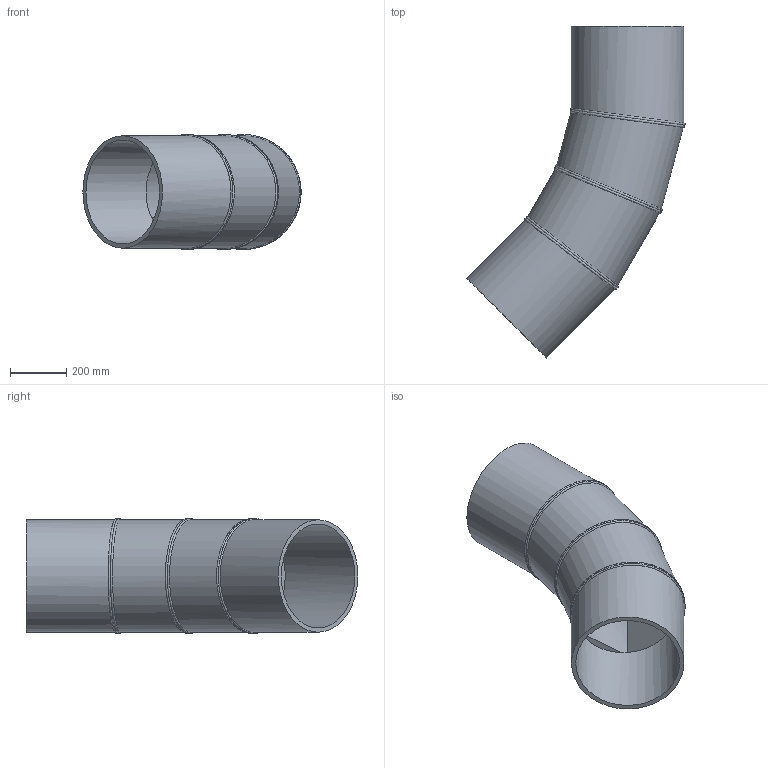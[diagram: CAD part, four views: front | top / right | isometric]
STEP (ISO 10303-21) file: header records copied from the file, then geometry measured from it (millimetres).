
FILE_DESCRIPTION(/* description */ ('Unknown'),/* implementation_level */ '2;1');
FILE_NAME(/* name */ 'Curva 45° a settore DE400 SDR26',/* time_stamp */ '2022-07-26T09:57:12+02:00',/* author */ ('Unknown'),/* organization */ ('Unknown'),/* preprocessor_version */ 'ST-DEVELOPER v18.102',/* originating_system */ 'Solid Edge',/* authorisation */ 'Unknown');
FILE_SCHEMA (('AUTOMOTIVE_DESIGN {1 0 10303 214 3 1 1}'));
Length unit declared in the file: millimetre
Products named in the file (3): Curva 45° a settore DE400 SDR26; Tubo x Gomito 45° DE400 SDR26 - 1; Tubo x Gomito 45° DE400 SDR26 - 2
Assembly tree (4 placements, depth 2):
  Curva 45° a settore DE400 SDR26
    Tubo x Gomito 45° DE400 SDR26 - 1  x2
    Tubo x Gomito 45° DE400 SDR26 - 2  x2
Bounding box: 775.48 x 1179.68 x 407.99 mm (x, y, z)
Volume: 21972377.1 mm3; surface area: 3031989.7 mm2
Topology: 4 solids, 4 shells, 34 faces, 74 edges, 48 vertices
Faces by surface type: cylinder 20, plane 8, bspline 6
Full cylindrical faces by diameter (mm): 369.4 x4, 400 x4
Entity records: 2384 total; most frequent: CARTESIAN_POINT 1982, DIRECTION 72, ORIENTED_EDGE 52, AXIS2_PLACEMENT_3D 36, EDGE_LOOP 28, FACE_BOUND 28, EDGE_CURVE 26, VERTEX_POINT 20
